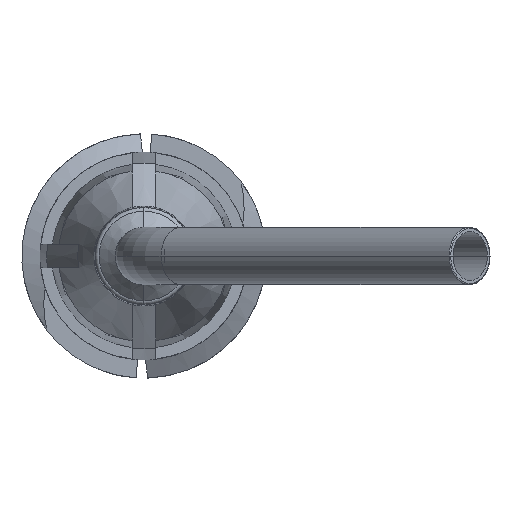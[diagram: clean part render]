
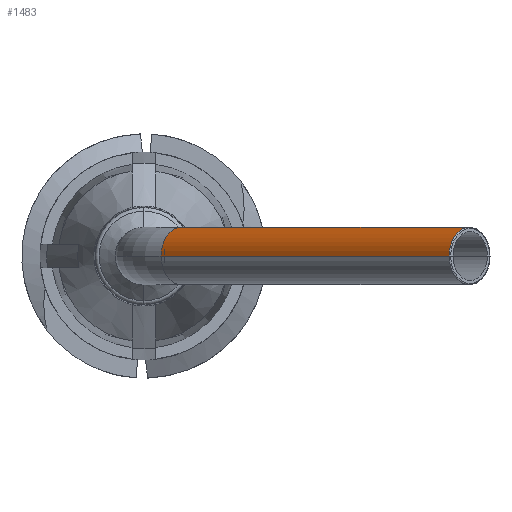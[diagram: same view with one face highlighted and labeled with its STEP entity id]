
A CAD part, front view. The second image highlights one B-rep face of the part: STEP entity #1483.
In plain terms, the highlighted cylindrical face has radius 0.921 mm (diameter 1.842 mm), a partial arc.
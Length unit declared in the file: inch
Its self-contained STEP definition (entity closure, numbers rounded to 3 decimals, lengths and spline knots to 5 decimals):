
#17 = LINE ( 'NONE', #706, #3081 ) ;
#126 = EDGE_CURVE ( 'NONE', #2322, #3962, #17, .T. ) ;
#276 = EDGE_CURVE ( 'NONE', #2322, #4135, #2639, .T. ) ;
#362 = EDGE_CURVE ( 'NONE', #3962, #3189, #515, .T. ) ;
#515 = CIRCLE ( 'NONE', #3692, 0.03625 ) ;
#580 = AXIS2_PLACEMENT_3D ( 'NONE', #2005, #869, #923 ) ;
#706 = CARTESIAN_POINT ( 'NONE',  ( 0.38576, -2.04617, 0. ) ) ;
#869 = DIRECTION ( 'NONE',  ( -0.707, 0.707, 0. ) ) ;
#923 = DIRECTION ( 'NONE',  ( 0., 0., 1. ) ) ;
#1062 = CARTESIAN_POINT ( 'NONE',  ( 0.41033, -2.01947, 0. ) ) ;
#1127 = EDGE_CURVE ( 'NONE', #4135, #3189, #1773, .T. ) ;
#1368 = VECTOR ( 'NONE', #4686, 39.37008 ) ;
#1442 = FACE_OUTER_BOUND ( 'NONE', #2632, .T. ) ;
#1483 = ADVANCED_FACE ( 'NONE', ( #1442 ), #3251, .T. ) ;
#1516 = ORIENTED_EDGE ( 'NONE', *, *, #276, .F. ) ;
#1567 = ORIENTED_EDGE ( 'NONE', *, *, #362, .T. ) ;
#1773 = LINE ( 'NONE', #3200, #1368 ) ;
#1808 = DIRECTION ( 'NONE',  ( -0.707, 0.707, 0. ) ) ;
#2005 = CARTESIAN_POINT ( 'NONE',  ( 0.04723, -1.65638, 0. ) ) ;
#2100 = DIRECTION ( 'NONE',  ( 0.707, 0.707, 0. ) ) ;
#2134 = AXIS2_PLACEMENT_3D ( 'NONE', #3229, #3983, #4360 ) ;
#2170 = DIRECTION ( 'NONE',  ( 0.707, -0.707, 0. ) ) ;
#2192 = ORIENTED_EDGE ( 'NONE', *, *, #126, .T. ) ;
#2322 = VERTEX_POINT ( 'NONE', #3830 ) ;
#2449 = CARTESIAN_POINT ( 'NONE',  ( 0.04723, -1.65638, 0.03625 ) ) ;
#2632 = EDGE_LOOP ( 'NONE', ( #2192, #1567, #2878, #1516 ) ) ;
#2639 = CIRCLE ( 'NONE', #580, 0.03625 ) ;
#2878 = ORIENTED_EDGE ( 'NONE', *, *, #1127, .F. ) ;
#3081 = VECTOR ( 'NONE', #2170, 39.37008 ) ;
#3189 = VERTEX_POINT ( 'NONE', #4603 ) ;
#3200 = CARTESIAN_POINT ( 'NONE',  ( 0.41139, -2.02054, 0.03625 ) ) ;
#3229 = CARTESIAN_POINT ( 'NONE',  ( 0.41139, -2.02054, 0. ) ) ;
#3251 = CYLINDRICAL_SURFACE ( 'NONE', #2134, 0.03625 ) ;
#3692 = AXIS2_PLACEMENT_3D ( 'NONE', #1062, #1808, #2100 ) ;
#3830 = CARTESIAN_POINT ( 'NONE',  ( 0.0216, -1.68201, 0. ) ) ;
#3962 = VERTEX_POINT ( 'NONE', #4465 ) ;
#3983 = DIRECTION ( 'NONE',  ( -0.707, 0.707, 0. ) ) ;
#4135 = VERTEX_POINT ( 'NONE', #2449 ) ;
#4360 = DIRECTION ( 'NONE',  ( 0., 0., 1. ) ) ;
#4465 = CARTESIAN_POINT ( 'NONE',  ( 0.3847, -2.04511, 0. ) ) ;
#4603 = CARTESIAN_POINT ( 'NONE',  ( 0.41033, -2.01947, 0.03625 ) ) ;
#4686 = DIRECTION ( 'NONE',  ( 0.707, -0.707, 0. ) ) ;
